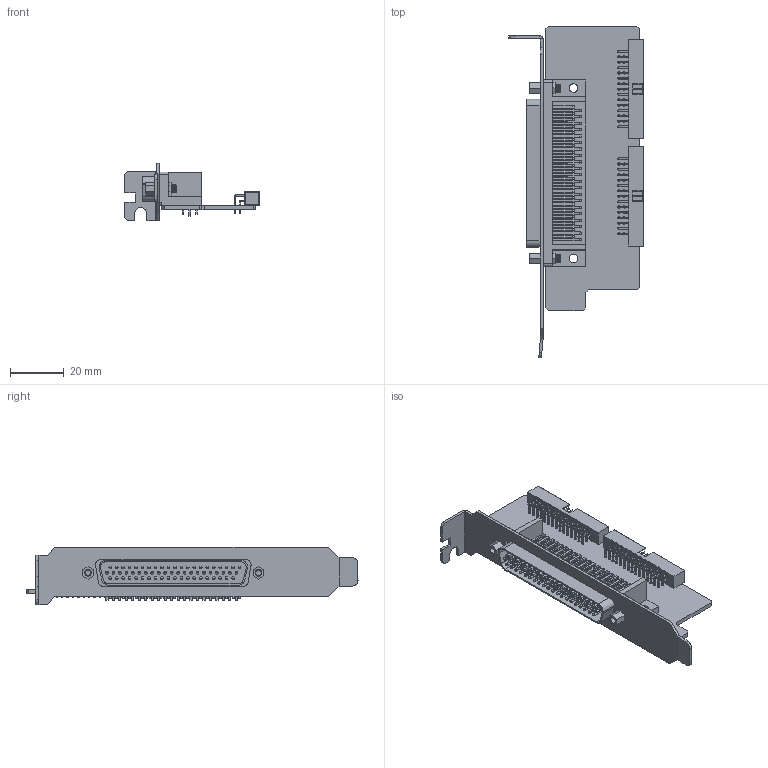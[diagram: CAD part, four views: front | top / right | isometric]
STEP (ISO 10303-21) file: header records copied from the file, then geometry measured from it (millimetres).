
FILE_DESCRIPTION (( 'STEP AP203' ), '1' );
FILE_NAME ('3Dͼֽ P62M-P60 V1.0.STEP', '2022-09-30T03:29:16', ( 'Microsoft' ), ( 'Microsoft' ), 'SwSTEP 2.0', 'SolidWorks 2020', '' );
FILE_SCHEMA (( 'CONFIG_CONTROL_DESIGN' ));
Length unit declared in the file: millimetre
Products named in the file (3): P62M-P60結啣; P62M-P60 V1.0; 3Dͼֽ P62M-P60 V1.0
Assembly tree (2 placements, depth 2):
  3Dͼֽ P62M-P60 V1.0
    P62M-P60 V1.0
    P62M-P60結啣
Bounding box: 50.18 x 123.69 x 21.5 mm (x, y, z)
Volume: 1740.6 mm3; surface area: 24997.4 mm2
Topology: 1 solids, 5 shells, 2501 faces, 7359 edges, 4747 vertices
Faces by surface type: plane 1919, cylinder 454, sphere 124, bspline 4
Entity records: 81910 total; most frequent: CARTESIAN_POINT 15647, DIRECTION 13478, ORIENTED_EDGE 12584, EDGE_CURVE 7173, VECTOR 5790, LINE 5790, VERTEX_POINT 4685, AXIS2_PLACEMENT_3D 3844
